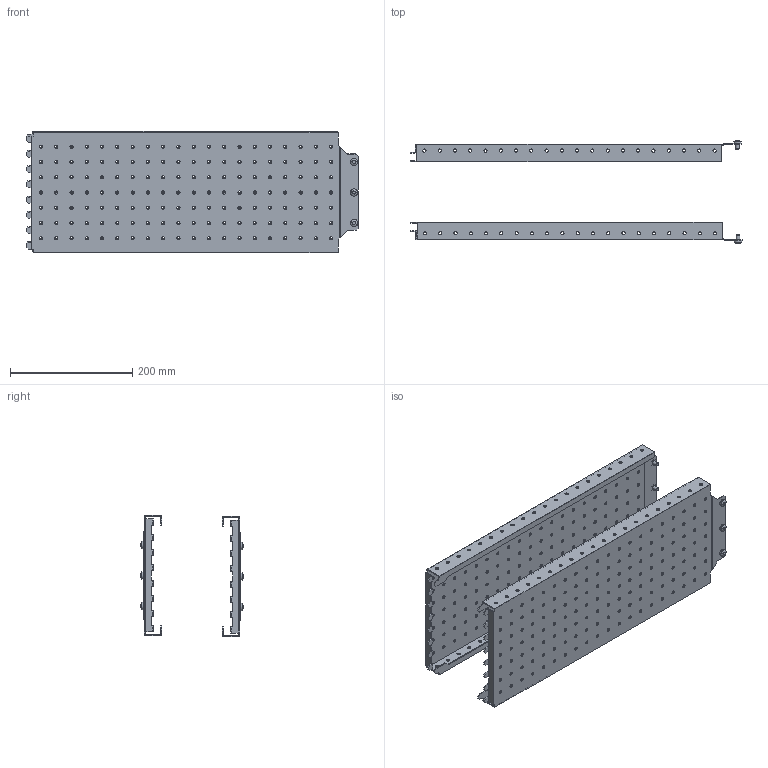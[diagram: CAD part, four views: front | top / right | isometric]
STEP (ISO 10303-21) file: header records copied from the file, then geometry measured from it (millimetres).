
FILE_DESCRIPTION (( 'STEP AP214' ), '1' );
FILE_NAME ('FO-00-MPSP-020-060 Ïàíåëü ìîíòàæíàÿ áîêîâàÿ ïåðôîðèðîâàííàÿ 200õ600ìì (2 øò.óïàê.).STEP', '2025-08-12T11:37:38', ( '' ), ( '' ), 'SwSTEP 2.0', 'SolidWorks 2023', '' );
FILE_SCHEMA (( 'AUTOMOTIVE_DESIGN' ));
Length unit declared in the file: millimetre
Products named in the file (2): FO-00-MPSP-020-060 Панель монтажная боковая перфорированная 200х600мм (2 шт.упак.); Панель монтажная боковая перфорированная 200х600мм
Assembly tree (2 placements, depth 2):
  FO-00-MPSP-020-060 Панель монтажная боковая перфорированная 200х600мм (2 шт.упак.)
    Панель монтажная боковая перфорированная 200х600мм  x2
Bounding box: 543.57 x 168.05 x 199.18 mm (x, y, z)
Volume: 418425.8 mm3; surface area: 569672.8 mm2
Topology: 2 solids, 2 shells, 1226 faces, 3594 edges, 2384 vertices
Faces by surface type: cylinder 846, plane 336, torus 12, cone 12, sphere 12, bspline 8
Entity records: 21774 total; most frequent: CARTESIAN_POINT 4032, DIRECTION 3783, ORIENTED_EDGE 3594, EDGE_CURVE 1797, AXIS2_PLACEMENT_3D 1439, VERTEX_POINT 1192, EDGE_LOOP 979, LINE 905
